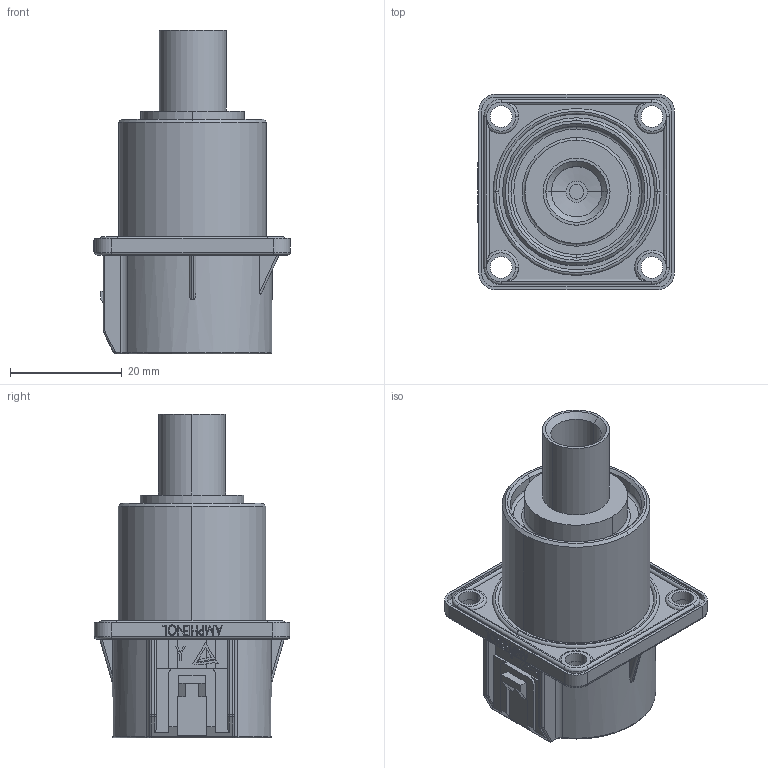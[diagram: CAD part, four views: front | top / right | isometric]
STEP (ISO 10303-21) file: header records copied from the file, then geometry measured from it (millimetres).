
FILE_DESCRIPTION (( 'STEP AP214' ), '1' );
FILE_NAME ('PL00X-300-30D35.STEP', '2017-08-02T07:03:16', ( '' ), ( '' ), 'SwSTEP 2.0', 'SolidWorks 2015', '' );
FILE_SCHEMA (( 'AUTOMOTIVE_DESIGN' ));
Length unit declared in the file: millimetre
Products named in the file (1): PL00X-300-30D35
Bounding box: 35.2 x 35 x 58 mm (x, y, z)
Volume: 20673.4 mm3; surface area: 10193.5 mm2
Topology: 1 solids, 3 shells, 381 faces, 956 edges, 612 vertices
Faces by surface type: plane 203, cylinder 100, torus 36, bspline 22, cone 20
Entity records: 16734 total; most frequent: CARTESIAN_POINT 3424, ORIENTED_EDGE 1912, DIRECTION 1858, EDGE_CURVE 956, AXIS2_PLACEMENT_3D 630, VERTEX_POINT 612, LINE 598, VECTOR 598
